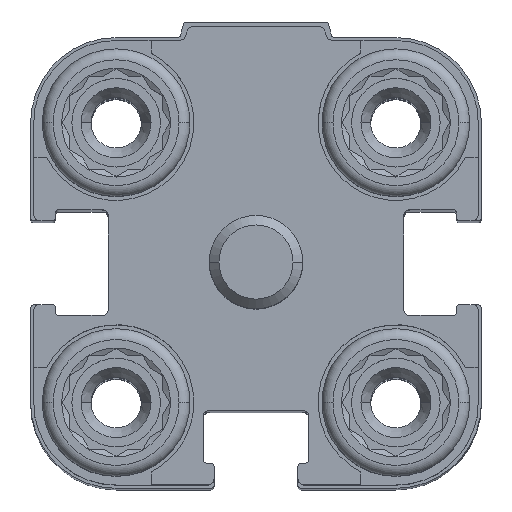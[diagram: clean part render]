
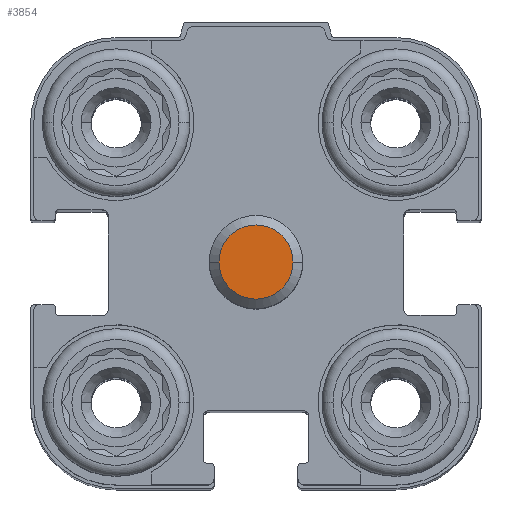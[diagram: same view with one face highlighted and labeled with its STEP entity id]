
A CAD part, top view. The second image highlights one B-rep face of the part: STEP entity #3854.
In plain terms, the highlighted planar face has unit normal (0, 0, 1).
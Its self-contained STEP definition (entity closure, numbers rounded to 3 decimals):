
#71 = EDGE_CURVE ( 'NONE', #7555, #1471, #4397, .T. ) ;
#1471 = VERTEX_POINT ( 'NONE', #4911 ) ;
#1917 = FACE_OUTER_BOUND ( 'NONE', #17586, .T. ) ;
#2262 = ORIENTED_EDGE ( 'NONE', *, *, #4683, .F. ) ;
#3195 = CARTESIAN_POINT ( 'NONE',  ( 0., 0., 20.5 ) ) ;
#3288 = CARTESIAN_POINT ( 'NONE',  ( 0., 0., 20.5 ) ) ;
#3824 = AXIS2_PLACEMENT_3D ( 'NONE', #3195, #7148, #12538 ) ;
#3854 = ADVANCED_FACE ( 'NONE', ( #1917 ), #7396, .F. ) ;
#4133 = ORIENTED_EDGE ( 'NONE', *, *, #71, .F. ) ;
#4397 = CIRCLE ( 'NONE', #3824, 2.387 ) ;
#4683 = EDGE_CURVE ( 'NONE', #1471, #7555, #16240, .T. ) ;
#4911 = CARTESIAN_POINT ( 'NONE',  ( -2.387, 0., 20.5 ) ) ;
#5970 = CARTESIAN_POINT ( 'NONE',  ( 2.387, 0., 20.5 ) ) ;
#6583 = DIRECTION ( 'NONE',  ( 0., 1., 0. ) ) ;
#7148 = DIRECTION ( 'NONE',  ( 0., 0., -1. ) ) ;
#7396 = PLANE ( 'NONE',  #8448 ) ;
#7555 = VERTEX_POINT ( 'NONE', #5970 ) ;
#8448 = AXIS2_PLACEMENT_3D ( 'NONE', #9451, #10440, #6583 ) ;
#8486 = AXIS2_PLACEMENT_3D ( 'NONE', #3288, #17303, #10462 ) ;
#9451 = CARTESIAN_POINT ( 'NONE',  ( 0., 0., 20.5 ) ) ;
#10440 = DIRECTION ( 'NONE',  ( 0., 0., -1. ) ) ;
#10462 = DIRECTION ( 'NONE',  ( -1., 0., 0. ) ) ;
#12538 = DIRECTION ( 'NONE',  ( -1., 0., 0. ) ) ;
#16240 = CIRCLE ( 'NONE', #8486, 2.387 ) ;
#17303 = DIRECTION ( 'NONE',  ( 0., 0., -1. ) ) ;
#17586 = EDGE_LOOP ( 'NONE', ( #2262, #4133 ) ) ;
